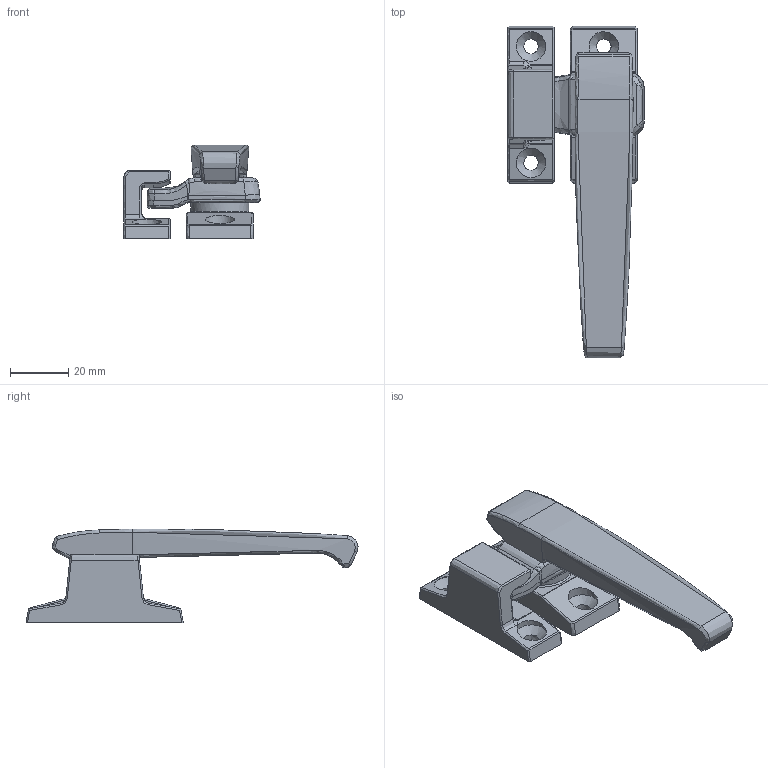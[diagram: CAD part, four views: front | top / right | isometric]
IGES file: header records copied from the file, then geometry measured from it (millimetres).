
Global section: file name: 7HNo Iges File Name specified; native system: Autodesk Inventor 2013; preprocessor: AutoDesk Inventor Iges Exporter R2013; author: G1015U; date: 20190205.164259; units: millimetre
Bounding box: 46.87 x 114 x 32.27 mm (x, y, z)
Volume: 32754 mm3; surface area: 20875.2 mm2
Topology: 6 solids, 6 shells, 728 faces, 1775 edges, 1058 vertices
Faces by surface type: bspline 728
